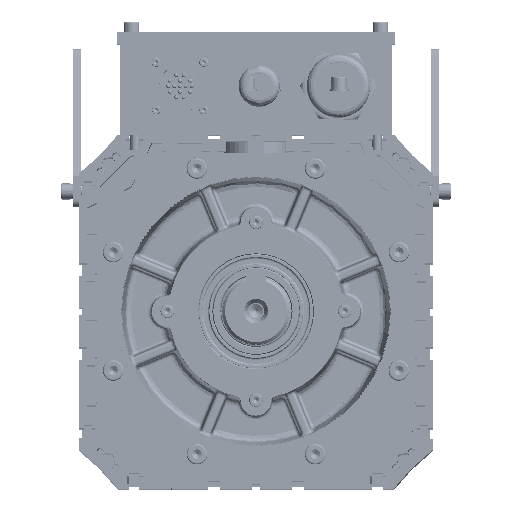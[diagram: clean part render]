
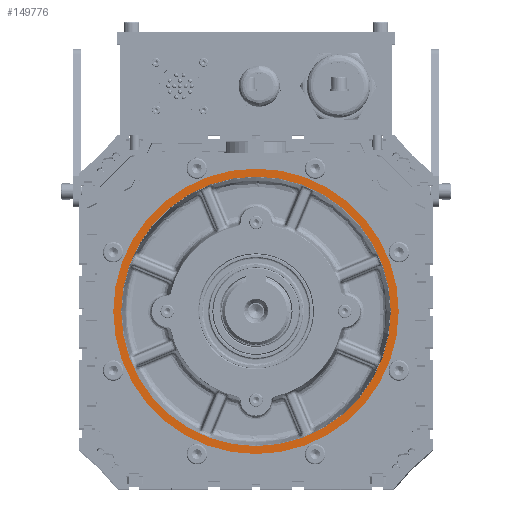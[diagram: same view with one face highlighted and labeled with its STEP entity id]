
A CAD part, top view. The second image highlights one B-rep face of the part: STEP entity #149776.
In plain terms, the highlighted planar face has unit normal (0, 0, 1) as drawn and (0, 0, -1) by its records, which use the part's own axes.
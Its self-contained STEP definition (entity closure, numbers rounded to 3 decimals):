
#395 = CIRCLE ( 'NONE', #2812, 90. ) ;
#2812 = AXIS2_PLACEMENT_3D ( 'NONE', #30388, #132298, #45044 ) ;
#2941 = EDGE_CURVE ( 'NONE', #187802, #154950, #395, .T. ) ;
#7887 = DIRECTION ( 'NONE',  ( -1., 0., 0. ) ) ;
#12523 = CARTESIAN_POINT ( 'NONE',  ( -28.364, -25.305, 205. ) ) ;
#20633 = DIRECTION ( 'NONE',  ( 0., 0., -1. ) ) ;
#21233 = CARTESIAN_POINT ( 'NONE',  ( -28.364, -25.305, 205. ) ) ;
#21807 = EDGE_CURVE ( 'NONE', #118540, #41428, #142572, .T. ) ;
#30388 = CARTESIAN_POINT ( 'NONE',  ( -28.364, -25.305, 205. ) ) ;
#38172 = CARTESIAN_POINT ( 'NONE',  ( -118.364, -25.305, 205. ) ) ;
#39176 = ORIENTED_EDGE ( 'NONE', *, *, #21807, .F. ) ;
#40502 = DIRECTION ( 'NONE',  ( 0., 0., -1. ) ) ;
#41164 = EDGE_CURVE ( 'NONE', #41428, #118540, #89221, .T. ) ;
#41428 = VERTEX_POINT ( 'NONE', #171404 ) ;
#45044 = DIRECTION ( 'NONE',  ( -1., 0., 0. ) ) ;
#46629 = PLANE ( 'NONE',  #89567 ) ;
#52024 = CARTESIAN_POINT ( 'NONE',  ( 61.636, -25.305, 205. ) ) ;
#70944 = FACE_OUTER_BOUND ( 'NONE', #139127, .T. ) ;
#73337 = AXIS2_PLACEMENT_3D ( 'NONE', #94954, #20633, #7887 ) ;
#84479 = ORIENTED_EDGE ( 'NONE', *, *, #41164, .F. ) ;
#89221 = CIRCLE ( 'NONE', #73337, 85. ) ;
#89567 = AXIS2_PLACEMENT_3D ( 'NONE', #103841, #148454, #178925 ) ;
#94954 = CARTESIAN_POINT ( 'NONE',  ( -28.364, -25.305, 205. ) ) ;
#101926 = CARTESIAN_POINT ( 'NONE',  ( -113.364, -25.305, 205. ) ) ;
#103841 = CARTESIAN_POINT ( 'NONE',  ( -28.364, -115.305, 205. ) ) ;
#112168 = AXIS2_PLACEMENT_3D ( 'NONE', #21233, #166392, #152325 ) ;
#118540 = VERTEX_POINT ( 'NONE', #101926 ) ;
#132298 = DIRECTION ( 'NONE',  ( 0., 0., 1. ) ) ;
#138632 = CIRCLE ( 'NONE', #112168, 90. ) ;
#139068 = ORIENTED_EDGE ( 'NONE', *, *, #161619, .F. ) ;
#139127 = EDGE_LOOP ( 'NONE', ( #175106, #139068 ) ) ;
#140510 = EDGE_LOOP ( 'NONE', ( #39176, #84479 ) ) ;
#142572 = CIRCLE ( 'NONE', #161692, 85. ) ;
#148454 = DIRECTION ( 'NONE',  ( 0., 0., 1. ) ) ;
#149776 = ADVANCED_FACE ( 'NONE', ( #70944, #155055 ), #46629, .F. ) ;
#152325 = DIRECTION ( 'NONE',  ( -1., 0., 0. ) ) ;
#154950 = VERTEX_POINT ( 'NONE', #52024 ) ;
#155055 = FACE_BOUND ( 'NONE', #140510, .T. ) ;
#158273 = DIRECTION ( 'NONE',  ( -1., 0., 0. ) ) ;
#161619 = EDGE_CURVE ( 'NONE', #154950, #187802, #138632, .T. ) ;
#161692 = AXIS2_PLACEMENT_3D ( 'NONE', #12523, #40502, #158273 ) ;
#166392 = DIRECTION ( 'NONE',  ( 0., 0., 1. ) ) ;
#171404 = CARTESIAN_POINT ( 'NONE',  ( 56.636, -25.305, 205. ) ) ;
#175106 = ORIENTED_EDGE ( 'NONE', *, *, #2941, .F. ) ;
#178925 = DIRECTION ( 'NONE',  ( 1., 0., 0. ) ) ;
#187802 = VERTEX_POINT ( 'NONE', #38172 ) ;
